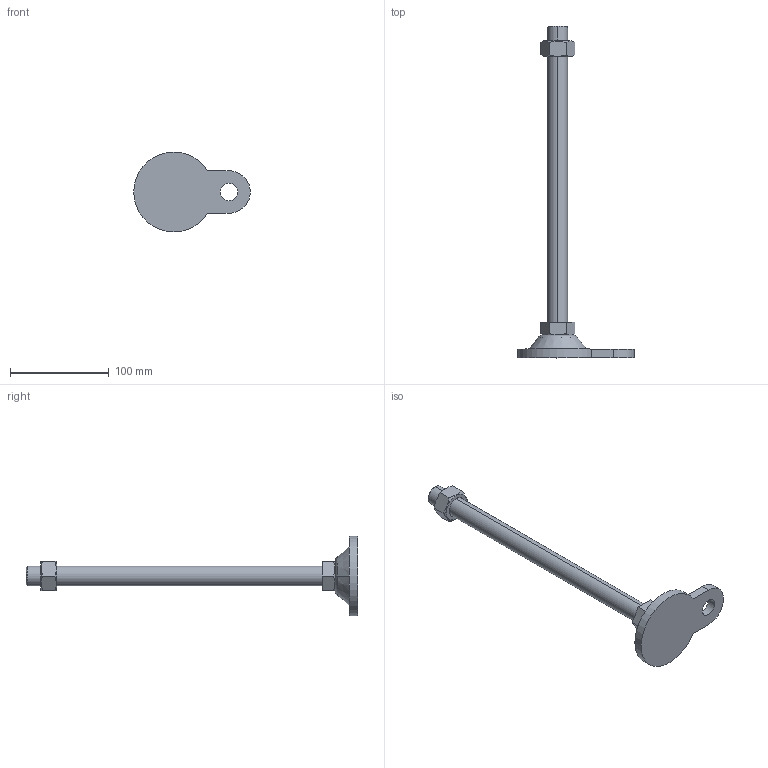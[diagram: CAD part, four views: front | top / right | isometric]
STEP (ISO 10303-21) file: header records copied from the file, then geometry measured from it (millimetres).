
FILE_DESCRIPTION (( 'STEP AP214' ), '1' );
FILE_NAME ('ARB81-M20-300.step', '2021-01-07T07:18:32', ( '' ), ( '' ), 'SwSTEP 2.0', 'SolidWorks 2019', '' );
FILE_SCHEMA (( 'AUTOMOTIVE_DESIGN' ));
Length unit declared in the file: millimetre
Products named in the file (1): ARB81-M20-300
Bounding box: 118 x 336 x 80.98 mm (x, y, z)
Volume: 194223.6 mm3; surface area: 42194.3 mm2
Topology: 3 solids, 3 shells, 46 faces, 100 edges, 62 vertices
Faces by surface type: plane 22, cone 14, cylinder 8, torus 2
Entity records: 1482 total; most frequent: CARTESIAN_POINT 419, DIRECTION 212, ORIENTED_EDGE 200, EDGE_CURVE 100, AXIS2_PLACEMENT_3D 83, VERTEX_POINT 62, EDGE_LOOP 52, FACE_OUTER_BOUND 46
